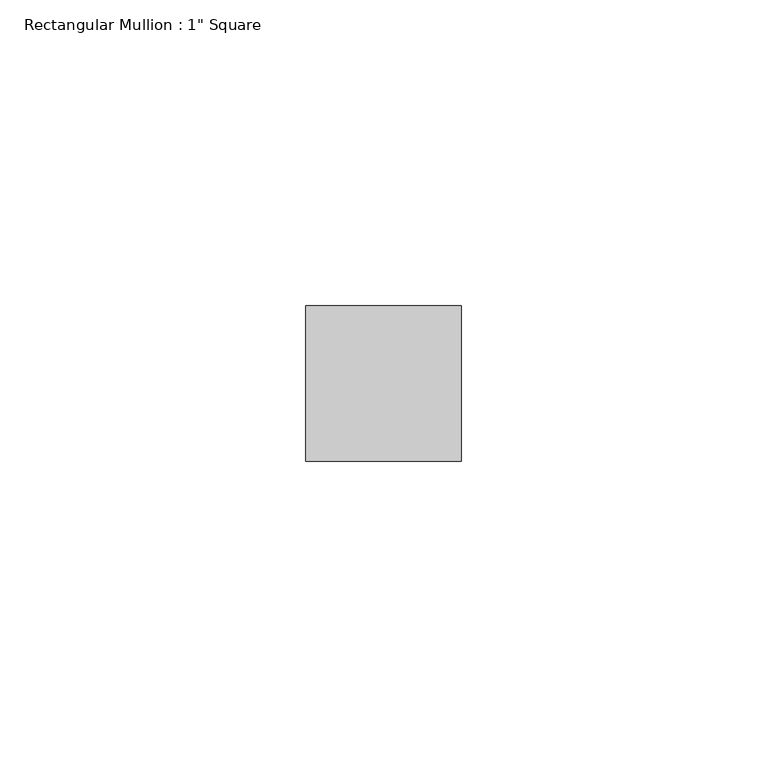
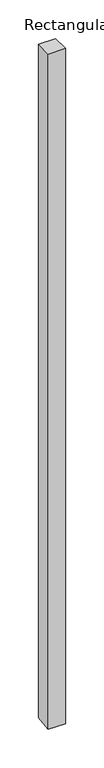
"""IFC4 building model written with IfcOpenShell, lengths in millimetres: member geometry."""

from ifc_helpers import new_model, si_unit, frame, origin, place, context, project, spatial, polyline, outline, extrude, source, transform, mapped, element, save


def member_5db58e8d(model_context):
    return source(origin(), model_context, "Body", "SweptSolid", [
        extrude(outline(polyline([(-12.7, 0.0), (12.7, 0.0), (12.7, -1062.834833), (-12.7, -1065.7175713), (-12.7, 0.0)])), frame((-12.7, 0.0, 0.0), z_axis=(1.0, 0.0, 0.0), x_axis=(0.0, 1.0, 0.0)), (0.0, 0.0, 1.0), 25.4),
    ])


if __name__ == "__main__":
    model = new_model("IFC4")
    model_context = context("Model", 3, world=origin())
    ifc_project = project(units=[si_unit("LENGTHUNIT", "METRE", prefix="MILLI")], contexts=[model_context])
    site = spatial("IfcSite", under=ifc_project)
    building = spatial("IfcBuilding", under=site)
    placement = place(None, origin())
    member_shape = member_5db58e8d(model_context)
    element("IfcMember", 1, ObjectType="Rectangular Mullion : 1\" Square", at=placement, inside=building, context=model_context, shape_type="MappedRepresentation", body=[
        mapped(member_shape, transform((0.0, 0.0, 0.0), x_axis=(1.0, 0.0, 0.0), y_axis=(0.0, 1.0, 0.0), z_axis=(0.0, 0.0, 1.0))),
    ])
    save(model, "model.ifc")
